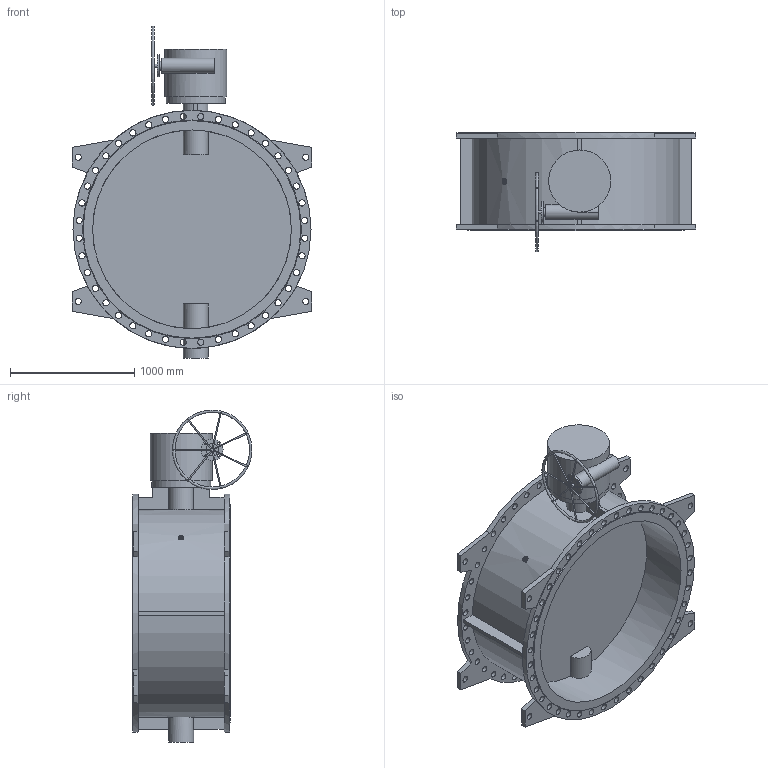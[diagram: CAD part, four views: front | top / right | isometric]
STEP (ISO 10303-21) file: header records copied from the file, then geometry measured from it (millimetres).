
FILE_DESCRIPTION(('STEP AP203'), '1');
FILE_NAME('Çàòâîð 023F.Z DN1600 PN10_ìàõ', '', ('UNSPECIFIED'), ('UNSPECIFIED'), 'ASCON STEP Converter 1.6', 'ASCON Math Kernel', '');
FILE_SCHEMA(('CONFIG_CONTROL_DESIGN'));
Length unit declared in the file: millimetre
Bounding box: 1930 x 965 x 2671 mm (x, y, z)
Volume: 536981336.3 mm3; surface area: 17968657.5 mm2
Topology: 2 solids, 2 shells, 253 faces, 639 edges, 425 vertices
Faces by surface type: cylinder 145, plane 105, cone 2, torus 1
Full cylindrical faces by diameter (mm): 10 x7, 18 x4, 24 x1, 33 x8, 39 x8, 50 x88, 70 x1, 100 x1, 120 x1, 175 x1, 200 x1, 475 x1, 500 x1, 1600 x2, 1915 x2
Entity records: 11324 total; most frequent: CARTESIAN_POINT 3106, DIRECTION 1277, ORIENTED_EDGE 1008, EDGE_LOOP 603, AXIS2_PLACEMENT_3D 548, EDGE_CURVE 504, VERTEX_POINT 423, FACE_BOUND 351
